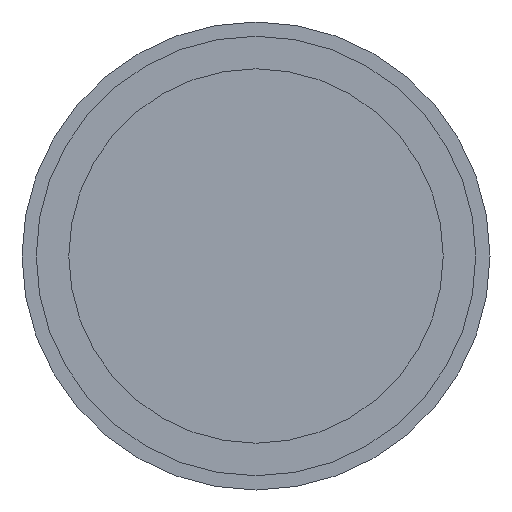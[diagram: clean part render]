
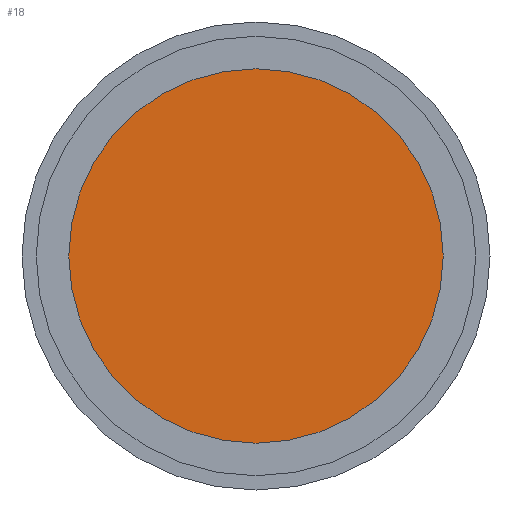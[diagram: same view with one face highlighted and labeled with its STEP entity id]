
A CAD part, front view. The second image highlights one B-rep face of the part: STEP entity #18.
In plain terms, the highlighted planar face has unit normal (0, -1, 0).
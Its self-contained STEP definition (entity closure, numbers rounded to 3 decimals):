
#16 = DIRECTION ( 'NONE',  ( 0., 0., 1. ) ) ;
#18 = ADVANCED_FACE ( 'NONE', ( #68 ), #137, .F. ) ;
#34 = AXIS2_PLACEMENT_3D ( 'NONE', #251, #280, #44 ) ;
#40 = EDGE_CURVE ( 'NONE', #75, #163, #208, .T. ) ;
#44 = DIRECTION ( 'NONE',  ( 0., 0., -1. ) ) ;
#48 = DIRECTION ( 'NONE',  ( 0., 0., -1. ) ) ;
#68 = FACE_OUTER_BOUND ( 'NONE', #155, .T. ) ;
#75 = VERTEX_POINT ( 'NONE', #77 ) ;
#77 = CARTESIAN_POINT ( 'NONE',  ( 0., 4.7, -4.6 ) ) ;
#123 = CIRCLE ( 'NONE', #311, 4.6 ) ;
#137 = PLANE ( 'NONE',  #284 ) ;
#141 = EDGE_CURVE ( 'NONE', #163, #75, #123, .T. ) ;
#155 = EDGE_LOOP ( 'NONE', ( #246, #157 ) ) ;
#157 = ORIENTED_EDGE ( 'NONE', *, *, #141, .T. ) ;
#163 = VERTEX_POINT ( 'NONE', #206 ) ;
#206 = CARTESIAN_POINT ( 'NONE',  ( 0., 4.7, 4.6 ) ) ;
#208 = CIRCLE ( 'NONE', #34, 4.6 ) ;
#214 = CARTESIAN_POINT ( 'NONE',  ( -4.6, 4.7, 0. ) ) ;
#246 = ORIENTED_EDGE ( 'NONE', *, *, #40, .T. ) ;
#251 = CARTESIAN_POINT ( 'NONE',  ( 0., 4.7, 0. ) ) ;
#278 = DIRECTION ( 'NONE',  ( 0., -1., 0. ) ) ;
#280 = DIRECTION ( 'NONE',  ( 0., -1., 0. ) ) ;
#284 = AXIS2_PLACEMENT_3D ( 'NONE', #214, #319, #16 ) ;
#311 = AXIS2_PLACEMENT_3D ( 'NONE', #333, #278, #48 ) ;
#319 = DIRECTION ( 'NONE',  ( 0., 1., 0. ) ) ;
#333 = CARTESIAN_POINT ( 'NONE',  ( 0., 4.7, 0. ) ) ;
